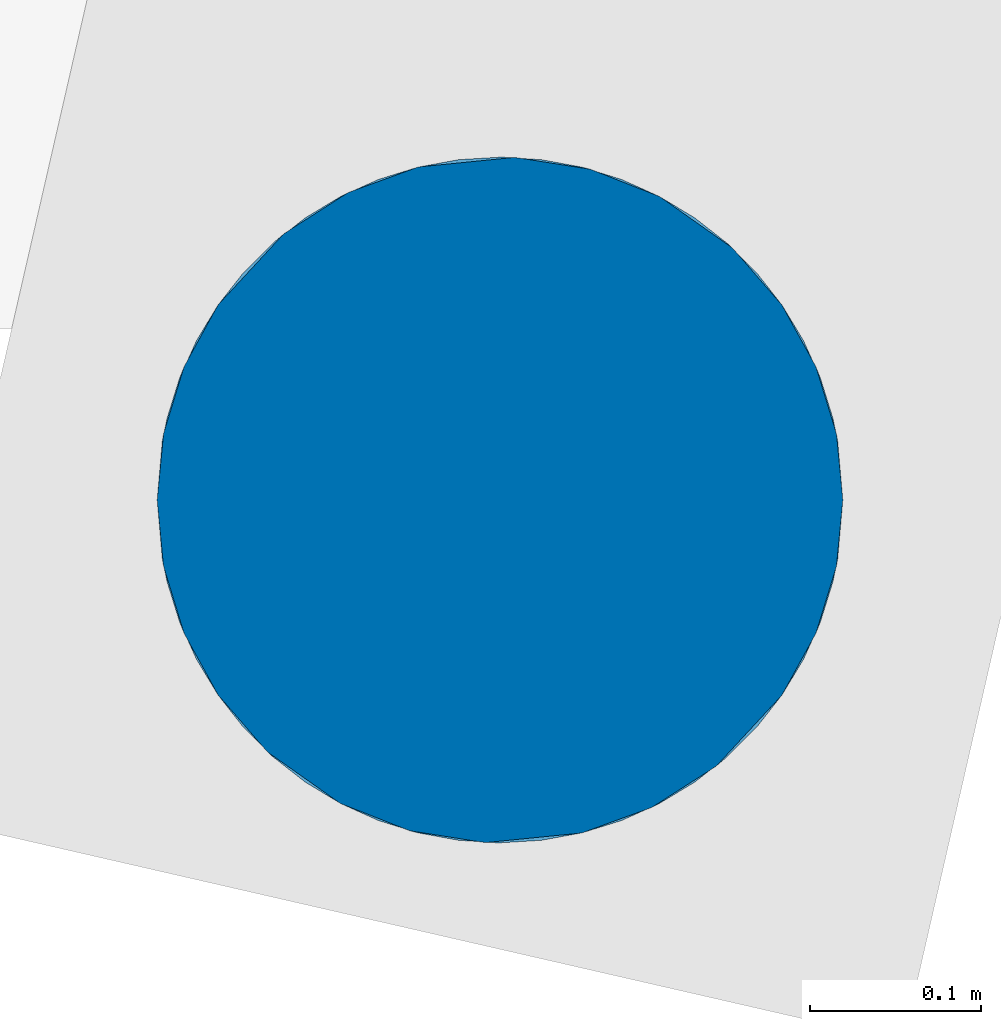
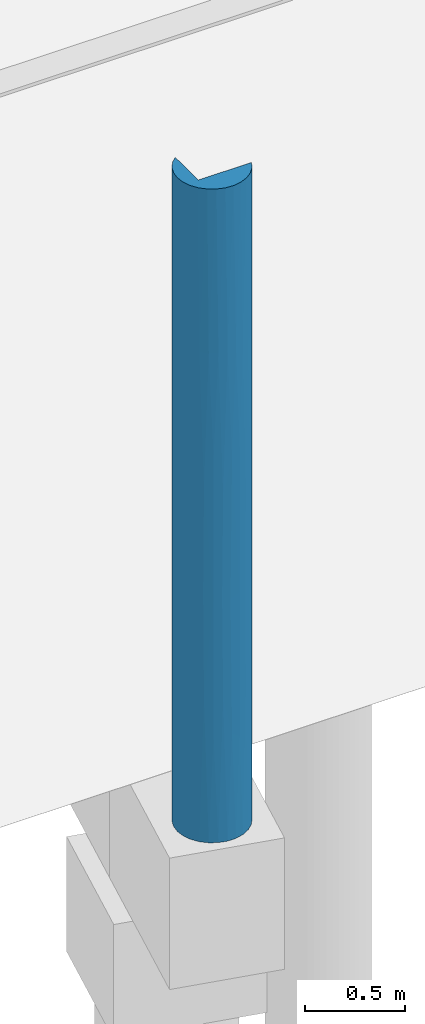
# One storey, part 9 of 29: 1 column.
"""IFC2X3 building model written with IfcOpenShell, lengths in centimetres."""

from ifc_helpers import new_model, entity, si_unit, converted_unit, derived_unit, direction, frame, origin, place, context, subcontext, project, spatial, faceted_brep, source, transform, mapped, material, type_object, type_shapes, element, save


model = new_model("IFC2X3")

# Units and contexts
model_context = context("Model", 3, precision=0.001, world=origin(), true_north=direction((6.12303176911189e-17, 1.0)))
body_context = subcontext(model_context, "Body", "Model", "MODEL_VIEW")
ifc_project = project(units=[si_unit("LENGTHUNIT", "METRE", prefix="CENTI"), si_unit("AREAUNIT", "SQUARE_METRE"), si_unit("VOLUMEUNIT", "CUBIC_METRE"), converted_unit("PLANEANGLEUNIT", "DEGREE", entity("IfcRatioMeasure", 0.0174532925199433), si_unit("PLANEANGLEUNIT", "RADIAN"), dimensions=[0, 0, 0, 0, 0, 0, 0]), si_unit("MASSUNIT", "GRAM", prefix="KILO"), derived_unit("MASSDENSITYUNIT", [(si_unit("MASSUNIT", "GRAM", prefix="KILO"), 1), (si_unit("LENGTHUNIT", "METRE"), -3)]), si_unit("TIMEUNIT", "SECOND"), si_unit("FREQUENCYUNIT", "HERTZ"), si_unit("THERMODYNAMICTEMPERATUREUNIT", "DEGREE_CELSIUS"), derived_unit("THERMALTRANSMITTANCEUNIT", [(si_unit("MASSUNIT", "GRAM", prefix="KILO"), 1), (si_unit("THERMODYNAMICTEMPERATUREUNIT", "KELVIN"), -1), (si_unit("TIMEUNIT", "SECOND"), -3)]), derived_unit("VOLUMETRICFLOWRATEUNIT", [(si_unit("LENGTHUNIT", "METRE"), 3), (si_unit("TIMEUNIT", "SECOND"), -1)]), si_unit("ELECTRICCURRENTUNIT", "AMPERE"), si_unit("ELECTRICVOLTAGEUNIT", "VOLT"), si_unit("POWERUNIT", "WATT"), si_unit("FORCEUNIT", "NEWTON"), si_unit("ILLUMINANCEUNIT", "LUX"), si_unit("LUMINOUSFLUXUNIT", "LUMEN"), si_unit("LUMINOUSINTENSITYUNIT", "CANDELA"), derived_unit("USERDEFINED", [(si_unit("MASSUNIT", "GRAM", prefix="KILO"), -1), (si_unit("LENGTHUNIT", "METRE"), -2), (si_unit("TIMEUNIT", "SECOND"), 3), (si_unit("LUMINOUSFLUXUNIT", "LUMEN"), 1)]), derived_unit("LINEARVELOCITYUNIT", [(si_unit("LENGTHUNIT", "METRE"), 1), (si_unit("TIMEUNIT", "SECOND"), -1)]), si_unit("PRESSUREUNIT", "PASCAL"), derived_unit("USERDEFINED", [(si_unit("LENGTHUNIT", "METRE"), -2), (si_unit("MASSUNIT", "GRAM", prefix="KILO"), 1), (si_unit("TIMEUNIT", "SECOND"), -2)])], contexts=[model_context])

# Site, building, storey
site_placement = place(None, origin())
site = spatial("IfcSite", under=ifc_project, at=site_placement, Name="Default", CompositionType="ELEMENT")
building_placement = place(site_placement, origin())
building = spatial("IfcBuilding", under=site, at=building_placement, Name="CAGE 03", CompositionType="ELEMENT")
storey_placement = place(building_placement, frame((0.0, 0.0, -26.0)))
storey = spatial("IfcBuildingStorey", under=building, at=storey_placement, Name="+3.74", CompositionType="ELEMENT", Elevation=-26.0000000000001)

# Column
ifc_material = material(Name="Béton, C25/30")
column_type = type_object("IfcColumnType", Name="Ø40", PredefinedType="COLUMN", material=ifc_material)
shared_shape = source(origin(), body_context, "Body", "Brep", [
    faceted_brep([(8.15952722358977, 13.1311101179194, 398.0), (8.15952722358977, 36.1311101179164, 398.0), (4.80467563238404, 32.9462781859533, 398.0), (2.27115875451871, 29.0757327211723, 398.0), (0.694642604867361, 24.7265716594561, 398.0), (0.15952722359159, 20.1311101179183, 398.0), (0.695576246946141, 15.531695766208, 398.0), (2.27480091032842, 11.1792072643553, 398.0), (4.81250997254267, 7.30656094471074, 398.0), (8.17258082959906, 4.1213282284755, 398.0), (12.1748848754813, 1.79411236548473, 398.0), (16.6049196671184, 0.449525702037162, 398.0), (21.2253023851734, 0.15952722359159, 398.0), (25.7884846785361, 0.939579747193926, 398.0), (30.0500085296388, 2.7478313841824, 398.0), (33.781594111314, 5.48736422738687, 398.0), (36.7833597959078, 9.01138932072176, 398.0), (38.8945212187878, 13.1311101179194, 398.0), (13.0674294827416, 38.8314349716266, 298.0), (17.7487936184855, 39.9852875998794, 298.0), (22.5702608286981, 39.9852875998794, 298.0), (27.2516249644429, 38.8314349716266, 298.0), (31.5208221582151, 36.5907874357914, 298.0), (35.1297421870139, 33.393563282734, 298.0), (37.8686477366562, 29.4255735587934, 298.0), (39.578363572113, 24.9174234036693, 298.0), (40.159527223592, 20.1311101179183, 298.0), (39.578363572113, 15.3447968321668, 298.0), (37.8686477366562, 10.8366466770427, 298.0), (35.1297421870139, 6.86865695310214, 298.0), (31.5208221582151, 3.6714328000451, 298.0), (27.2516249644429, 1.4307852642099, 298.0), (22.5702608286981, 0.276932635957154, 298.0), (17.7487936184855, 0.276932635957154, 298.0), (13.0674294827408, 1.4307852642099, 298.0), (8.79823228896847, 3.6714328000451, 298.0), (5.1893122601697, 6.86865695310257, 298.0), (2.45040671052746, 10.8366466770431, 298.0), (0.740690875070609, 15.3447968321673, 298.0), (0.15952722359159, 20.1311101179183, 298.0), (0.740690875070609, 24.9174234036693, 298.0), (2.45040671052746, 29.4255735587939, 298.0), (5.1893122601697, 33.3935632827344, 298.0), (8.79823228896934, 36.5907874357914, 298.0), (38.8945212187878, 13.1311101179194, 375.0), (39.8407350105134, 16.5744178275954, 375.0), (40.159527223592, 20.1311101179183, 375.0), (39.5572519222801, 25.0022779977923, 375.0), (31.2312477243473, 36.7869500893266, 375.0), (34.9545061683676, 33.5887695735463, 375.0), (37.7866995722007, 29.5800674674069, 375.0), (26.8411669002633, 38.9819905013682, 375.0), (22.0486674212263, 40.0416889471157, 375.0), (17.1423896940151, 39.9022224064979, 375.0), (12.4178267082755, 38.5719906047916, 375.0), (8.15952722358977, 36.1311101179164, 375.0), (8.15952722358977, 13.1311101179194, 375.0)], [[[0, 1, 2, 3, 4, 5, 6, 7, 8, 9, 10, 11, 12, 13, 14, 15, 16, 17]], [[18, 19, 20, 21, 22, 23, 24, 25, 26, 27, 28, 29, 30, 31, 32, 33, 34, 35, 36, 37, 38, 39, 40, 41, 42, 43]], [[6, 39, 38]], [[37, 7, 38]], [[35, 34, 10]], [[9, 36, 35]], [[8, 37, 36]], [[11, 34, 33]], [[5, 39, 6]], [[6, 38, 7]], [[8, 7, 37]], [[36, 9, 8]], [[35, 10, 9]], [[11, 10, 34]], [[33, 12, 11]], [[33, 32, 12]], [[13, 32, 31]], [[30, 14, 31]], [[28, 27, 44]], [[16, 29, 28]], [[15, 30, 29]], [[45, 27, 26]], [[14, 30, 15]], [[16, 15, 29]], [[14, 13, 31]], [[44, 27, 45]], [[26, 46, 45]], [[44, 17, 16]], [[16, 28, 44]], [[32, 13, 12]], [[47, 25, 24]], [[26, 25, 46]], [[22, 21, 48]], [[49, 23, 22]], [[50, 24, 23]], [[51, 21, 20]], [[47, 46, 25]], [[47, 24, 50]], [[23, 49, 50]], [[22, 48, 49]], [[51, 48, 21]], [[20, 52, 51]], [[20, 19, 52]], [[53, 19, 18]], [[43, 54, 18]], [[41, 40, 3]], [[2, 42, 41]], [[55, 43, 42]], [[4, 40, 39]], [[53, 18, 54]], [[1, 55, 2]], [[43, 55, 54]], [[55, 42, 2]], [[41, 3, 2]], [[4, 3, 40]], [[39, 5, 4]], [[19, 53, 52]], [[52, 53, 54, 55, 56, 44, 45, 46, 47, 50, 49, 48, 51]], [[0, 17, 44, 56]], [[0, 56, 55, 1]]]),
    faceted_brep([(22.5702608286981, 39.9852875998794, 0.0), (27.2516249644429, 38.8314349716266, 0.0), (31.5208221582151, 36.5907874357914, 0.0), (35.1297421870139, 33.393563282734, 0.0), (37.8686477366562, 29.4255735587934, 0.0), (39.578363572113, 24.9174234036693, 0.0), (40.159527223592, 20.1311101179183, 0.0), (39.578363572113, 15.3447968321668, 0.0), (37.8686477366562, 10.8366466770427, 0.0), (35.1297421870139, 6.86865695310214, 0.0), (31.5208221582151, 3.6714328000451, 0.0), (27.2516249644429, 1.4307852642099, 0.0), (22.5702608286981, 0.276932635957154, 0.0), (17.7487936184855, 0.276932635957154, 0.0), (13.0674294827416, 1.4307852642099, 0.0), (8.79823228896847, 3.6714328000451, 0.0), (5.1893122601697, 6.86865695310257, 0.0), (2.45040671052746, 10.8366466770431, 0.0), (0.740690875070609, 15.3447968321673, 0.0), (0.15952722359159, 20.1311101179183, 0.0), (0.740690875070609, 24.9174234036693, 0.0), (2.45040671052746, 29.4255735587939, 0.0), (5.1893122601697, 33.3935632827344, 0.0), (8.79823228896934, 36.5907874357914, 0.0), (13.0674294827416, 38.8314349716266, 0.0), (17.7487936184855, 39.9852875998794, 0.0), (27.2516249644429, 1.4307852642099, 298.0), (31.5208221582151, 3.6714328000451, 298.0), (35.1297421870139, 6.86865695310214, 298.0), (37.8686477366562, 10.8366466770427, 298.0), (39.578363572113, 15.3447968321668, 298.0), (40.159527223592, 20.1311101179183, 298.0), (39.578363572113, 24.9174234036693, 298.0), (37.8686477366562, 29.4255735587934, 298.0), (35.1297421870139, 33.393563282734, 298.0), (31.5208221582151, 36.5907874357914, 298.0), (27.2516249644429, 38.8314349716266, 298.0), (22.5702608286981, 39.9852875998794, 298.0), (17.7487936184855, 39.9852875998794, 298.0), (13.0674294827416, 38.8314349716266, 298.0), (8.79823228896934, 36.5907874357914, 298.0), (5.1893122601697, 33.3935632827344, 298.0), (2.45040671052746, 29.4255735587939, 298.0), (0.740690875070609, 24.9174234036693, 298.0), (0.15952722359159, 20.1311101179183, 298.0), (0.740690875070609, 15.3447968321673, 298.0), (2.45040671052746, 10.8366466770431, 298.0), (5.1893122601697, 6.86865695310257, 298.0), (8.79823228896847, 3.6714328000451, 298.0), (13.0674294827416, 1.4307852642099, 298.0), (17.7487936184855, 0.276932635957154, 298.0), (22.5702608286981, 0.276932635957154, 298.0), (29.4539906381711, 37.840230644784, 234.492004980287), (15.3732139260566, 39.5499464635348, 237.069426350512), (39.8586298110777, 23.5873157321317, 60.2992552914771), (38.8598520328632, 27.2232079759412, 92.1783624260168), (29.4539906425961, 37.8402306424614, 64.7303650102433), (33.4219803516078, 35.1013251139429, 86.909719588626), (0.159527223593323, 20.1311101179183, 49.3811051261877), (36.6192045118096, 31.4924050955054, 234.492005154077), (38.8598520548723, 27.2232079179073, 216.184382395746), (39.7898281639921, 23.9588098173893, 148.140478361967), (38.5835538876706, 27.9128349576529, 151.462832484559), (0.159527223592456, 20.1311101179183, 100.479587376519), (0.539464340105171, 24.0109467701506, 149.859525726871), (0.457816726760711, 23.5724185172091, 74.9297628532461), (1.73651405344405, 27.9152340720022, 152.588649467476), (1.45920236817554, 27.2232078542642, 86.9097194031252), (24.9458404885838, 39.5499464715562, 86.9097193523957), (20.15952721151, 40.1311101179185, 64.7303650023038), (3.69984990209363, 31.4924050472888, 237.069426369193), (6.89707405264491, 35.1013250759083, 233.269635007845), (40.1595272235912, 20.1311101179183, 248.619841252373), (10.8650637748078, 37.8402306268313, 86.9097194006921), (33.4219803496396, 35.1013251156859, 216.184382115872), (36.6192044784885, 31.4924051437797, 161.451403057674), (36.6192045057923, 31.4924051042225, 64.7303651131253), (0.159527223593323, 20.1311101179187, 197.520510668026), (0.159527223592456, 20.1311101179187, 199.23979368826), (29.4539906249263, 37.8402306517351, 149.0), (0.441806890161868, 23.479468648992, 238.83127802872), (1.45920236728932, 27.2232078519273, 211.090280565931), (15.3732139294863, 39.5499464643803, 60.9305736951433), (15.3732139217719, 39.5499464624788, 149.0), (11.3350094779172, 38.0790316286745, 149.0), (6.89707405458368, 35.1013250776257, 64.7303649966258), (20.1595272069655, 40.1311101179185, 233.269635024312), (3.6998499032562, 31.4924050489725, 60.930573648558), (3.69984990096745, 31.4924050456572, 149.0), (21.0345162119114, 40.111960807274, 146.717454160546), (25.4559542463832, 39.4170599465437, 149.0), (24.9458404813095, 39.549946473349, 211.09028058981), (40.1595272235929, 20.1311101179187, 98.7603174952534), (10.8650637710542, 37.8402306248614, 211.09028055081), (33.7312290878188, 34.8215460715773, 151.547050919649), (7.56471106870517, 35.6672166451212, 146.717453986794), (39.8666164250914, 23.5414818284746, 223.070239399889), (40.1595272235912, 20.1311101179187, 197.520634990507), (40.159527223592, 20.1311101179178, 100.479367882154), (40.159527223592, 20.1311101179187, 49.3801580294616), (0.159527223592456, 20.1311101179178, 98.7602553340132), (0.159527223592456, 20.1311101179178, 248.619032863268), (40.159527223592, 20.1311101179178, 199.239683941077), (36.6192045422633, 8.76981518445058, 237.069426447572), (33.4219803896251, 5.1608951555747, 233.269635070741), (39.8772475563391, 16.7827515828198, 238.831278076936), (38.8598520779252, 13.0390123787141, 211.090280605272), (38.5825403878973, 12.3469861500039, 152.588649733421), (38.8598520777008, 13.0390123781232, 86.9097193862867), (39.7795901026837, 16.2512734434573, 149.859525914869), (6.89707406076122, 5.16089515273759, 86.9097194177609), (10.8650637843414, 2.42198960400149, 64.7303649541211), (24.9458405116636, 0.712273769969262, 149.0), (29.4539906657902, 2.42198960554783, 86.909719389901), (28.9840449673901, 2.18318860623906, 149.0), (6.89707406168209, 5.16089515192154, 216.184381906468), (32.7543433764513, 4.59500358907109, 146.717453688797), (33.4219803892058, 5.16089515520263, 64.7303649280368), (39.8612377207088, 16.6898017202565, 74.9297629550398), (20.1595272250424, 0.131110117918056, 64.7303649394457), (15.3732139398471, 0.712273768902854, 86.9097193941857), (1.45920237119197, 13.0390123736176, 92.1783625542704), (10.8650637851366, 2.42198960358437, 234.492004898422), (24.9458405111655, 0.712273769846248, 237.069426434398), (3.69984990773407, 8.76981518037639, 234.492004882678), (3.69984990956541, 8.76981517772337, 161.451402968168), (3.69984990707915, 8.76981518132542, 64.7303649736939), (1.45920237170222, 13.0390123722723, 216.184381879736), (0.529226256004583, 16.3034105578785, 148.140474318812), (1.73550049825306, 12.349385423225, 151.462831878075), (10.865063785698, 2.4219896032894, 149.0), (0.460424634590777, 16.6749045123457, 60.2992559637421), (24.9458405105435, 0.712273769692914, 60.9305735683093), (19.2845382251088, 0.150259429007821, 146.717453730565), (36.6192045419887, 8.76981518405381, 60.9305735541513), (36.6192045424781, 8.76981518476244, 149.0), (20.1595272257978, 0.131110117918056, 233.269635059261), (14.8631001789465, 0.845160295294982, 149.0), (15.3732139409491, 0.712273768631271, 211.090280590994), (29.4539906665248, 2.42198960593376, 211.090280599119), (6.58782530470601, 5.4406742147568, 151.54705066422), (0.45243801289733, 16.7207384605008, 223.070237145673)], [[[0, 1, 2, 3, 4, 5, 6, 7, 8, 9, 10, 11, 12, 13, 14, 15, 16, 17, 18, 19, 20, 21, 22, 23, 24, 25]], [[26, 27, 28, 29, 30, 31, 32, 33, 34, 35, 36, 37, 38, 39, 40, 41, 42, 43, 44, 45, 46, 47, 48, 49, 50, 51]], [[36, 35, 52]], [[39, 38, 53]], [[54, 6, 5]], [[55, 5, 4]], [[2, 56, 57]], [[20, 19, 58]], [[34, 33, 59]], [[60, 61, 62]], [[2, 1, 56]], [[63, 64, 65]], [[66, 67, 64]], [[68, 0, 69]], [[2, 57, 3]], [[68, 1, 0]], [[70, 41, 71]], [[32, 31, 72]], [[73, 24, 23]], [[74, 35, 34]], [[33, 32, 60]], [[59, 33, 60]], [[74, 59, 75]], [[75, 76, 57]], [[64, 63, 77, 78]], [[74, 52, 35]], [[42, 41, 70]], [[57, 56, 79]], [[79, 52, 74]], [[80, 43, 81]], [[69, 25, 82]], [[83, 73, 84]], [[40, 71, 41]], [[73, 23, 85]], [[67, 65, 64]], [[37, 86, 38]], [[87, 88, 85]], [[88, 70, 71]], [[89, 68, 69]], [[22, 87, 85]], [[79, 68, 90]], [[85, 23, 22]], [[81, 43, 42]], [[86, 37, 91]], [[53, 38, 86]], [[61, 92, 54]], [[57, 76, 3]], [[54, 5, 55]], [[69, 82, 83]], [[83, 53, 86]], [[76, 75, 55]], [[93, 40, 39]], [[71, 40, 93]], [[94, 79, 74]], [[21, 20, 67]], [[44, 43, 80]], [[69, 0, 25]], [[91, 37, 36]], [[95, 73, 85]], [[3, 76, 4]], [[94, 74, 75]], [[52, 79, 91]], [[79, 56, 68]], [[32, 72, 96]], [[61, 97, 98, 92]], [[1, 68, 56]], [[55, 4, 76]], [[25, 24, 82]], [[89, 69, 83]], [[93, 53, 83]], [[83, 82, 73]], [[90, 89, 91]], [[91, 89, 86]], [[83, 86, 89]], [[22, 21, 87]], [[95, 85, 88]], [[81, 70, 88]], [[88, 87, 67]], [[84, 95, 93]], [[93, 95, 71]], [[88, 71, 95]], [[91, 36, 52]], [[75, 59, 60]], [[74, 34, 59]], [[24, 73, 82]], [[93, 39, 53]], [[21, 67, 87]], [[81, 42, 70]], [[62, 61, 55]], [[61, 60, 96]], [[55, 75, 62]], [[60, 62, 75]], [[61, 54, 55]], [[54, 92, 99, 6]], [[89, 90, 68]], [[91, 79, 90]], [[95, 84, 73]], [[93, 83, 84]], [[65, 58, 100, 63]], [[20, 58, 65]], [[20, 65, 67]], [[80, 64, 78]], [[64, 81, 66]], [[64, 80, 81]], [[80, 78, 101, 44]], [[75, 57, 94]], [[79, 94, 57]], [[96, 72, 102, 97]], [[61, 96, 97]], [[32, 96, 60]], [[81, 88, 66]], [[67, 66, 88]], [[103, 28, 104]], [[105, 30, 106]], [[107, 108, 109]], [[16, 15, 110]], [[15, 111, 110]], [[112, 113, 114]], [[111, 15, 14]], [[7, 6, 99]], [[47, 115, 48]], [[116, 113, 117]], [[98, 109, 118]], [[13, 119, 120]], [[121, 18, 17]], [[120, 14, 13]], [[49, 48, 122]], [[45, 44, 101]], [[26, 51, 123]], [[115, 124, 125]], [[125, 126, 110]], [[127, 128, 129]], [[124, 47, 46]], [[127, 124, 46]], [[109, 98, 97, 102]], [[122, 48, 115]], [[113, 11, 10]], [[110, 111, 130]], [[130, 122, 115]], [[131, 19, 18]], [[119, 12, 132]], [[117, 10, 9]], [[133, 120, 119]], [[113, 10, 117]], [[108, 118, 109]], [[126, 125, 121]], [[125, 124, 127]], [[134, 135, 117]], [[135, 103, 104]], [[50, 136, 51]], [[9, 134, 117]], [[119, 13, 12]], [[130, 120, 137]], [[106, 30, 29]], [[136, 50, 138]], [[123, 51, 136]], [[16, 126, 17]], [[46, 45, 127]], [[128, 100, 131]], [[119, 132, 112]], [[112, 123, 136]], [[131, 18, 121]], [[139, 27, 26]], [[104, 27, 139]], [[31, 30, 105]], [[8, 7, 108]], [[110, 126, 16]], [[140, 130, 115]], [[138, 50, 49]], [[27, 104, 28]], [[29, 28, 103]], [[140, 115, 125]], [[122, 130, 138]], [[130, 111, 120]], [[45, 101, 141]], [[128, 77, 63, 100]], [[14, 120, 111]], [[121, 17, 126]], [[12, 11, 132]], [[133, 119, 112]], [[139, 123, 112]], [[112, 132, 113]], [[137, 133, 138]], [[138, 133, 136]], [[112, 136, 133]], [[9, 8, 134]], [[116, 117, 135]], [[106, 103, 135]], [[135, 134, 108]], [[114, 116, 139]], [[139, 116, 104]], [[135, 104, 116]], [[138, 49, 122]], [[115, 47, 124]], [[11, 113, 132]], [[139, 26, 123]], [[8, 108, 134]], [[106, 29, 103]], [[129, 128, 121]], [[128, 127, 141]], [[121, 125, 129]], [[127, 129, 125]], [[128, 131, 121]], [[131, 100, 58, 19]], [[133, 137, 120]], [[138, 130, 137]], [[116, 114, 113]], [[139, 112, 114]], [[118, 99, 92, 98]], [[7, 99, 118]], [[7, 118, 108]], [[105, 109, 102]], [[109, 106, 107]], [[109, 105, 106]], [[105, 102, 72, 31]], [[125, 110, 140]], [[130, 140, 110]], [[141, 101, 78, 77]], [[128, 141, 77]], [[45, 141, 127]], [[106, 135, 107]], [[108, 107, 135]]]),
])
type_shapes(column_type, [shared_shape])
column_placement = place(storey_placement, frame((5880.20629291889, 3801.52955595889, -32.0)))
element("IfcColumn", 1, at=column_placement, inside=storey, type_object=column_type, material=ifc_material, Name="BBGO-Poteau circ:Ø40", ObjectType="Ø40", context=body_context, shape_type="MappedRepresentation", body=[
    mapped(shared_shape, transform((0.0, 0.0, 0.0), scale=1.0)),
])

save(model, "model.ifc")
